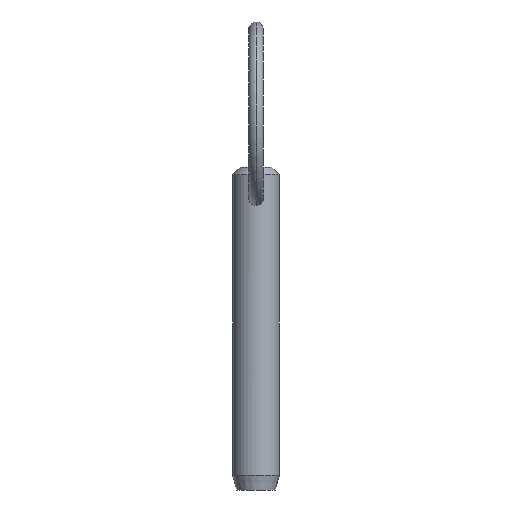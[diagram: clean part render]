
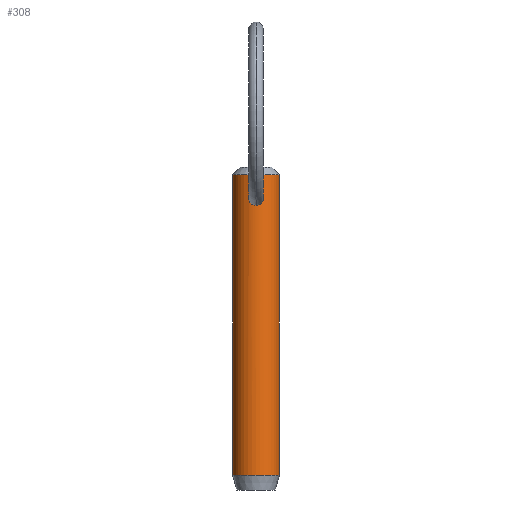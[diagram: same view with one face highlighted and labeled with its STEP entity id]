
A CAD part, front view. The second image highlights one B-rep face of the part: STEP entity #308.
In plain terms, the highlighted cylindrical face has radius 3.175 mm (diameter 6.35 mm), a partial arc.
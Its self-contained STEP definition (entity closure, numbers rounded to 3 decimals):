
#1 = FACE_BOUND ( 'NONE', #432, .T. ) ;
#2 = VERTEX_POINT ( 'NONE', #474 ) ;
#7 = CARTESIAN_POINT ( 'NONE',  ( 0., -3.175, 32.982 ) ) ;
#10 = CARTESIAN_POINT ( 'NONE',  ( 0., -3.175, 30.903 ) ) ;
#12 = CARTESIAN_POINT ( 'NONE',  ( 0.628, -3.114, 31.104 ) ) ;
#14 = CARTESIAN_POINT ( 'NONE',  ( 0.134, -3.175, 30.903 ) ) ;
#15 = AXIS2_PLACEMENT_3D ( 'NONE', #69, #179, #363 ) ;
#48 = CARTESIAN_POINT ( 'NONE',  ( 0.134, -3.175, 32.982 ) ) ;
#52 = CARTESIAN_POINT ( 'NONE',  ( -0.629, -3.114, 31.105 ) ) ;
#69 = CARTESIAN_POINT ( 'NONE',  ( 0., 0., -5.92 ) ) ;
#76 = CARTESIAN_POINT ( 'NONE',  ( 0.888, -3.049, 31.409 ) ) ;
#79 = CARTESIAN_POINT ( 'NONE',  ( 0.815, -3.07, 31.295 ) ) ;
#81 = ORIENTED_EDGE ( 'NONE', *, *, #413, .T. ) ;
#82 = CARTESIAN_POINT ( 'NONE',  ( 0.51, -3.136, 32.834 ) ) ;
#83 = CARTESIAN_POINT ( 'NONE',  ( -0.991, -3.016, 32.196 ) ) ;
#84 = CARTESIAN_POINT ( 'NONE',  ( -0.067, -3.175, 32.982 ) ) ;
#90 = CARTESIAN_POINT ( 'NONE',  ( -3.175, 0., 35.08 ) ) ;
#101 = VERTEX_POINT ( 'NONE', #165 ) ;
#104 = CARTESIAN_POINT ( 'NONE',  ( 3.175, 0., 30.5 ) ) ;
#112 = CARTESIAN_POINT ( 'NONE',  ( 0.982, -3.02, 31.658 ) ) ;
#117 = CARTESIAN_POINT ( 'NONE',  ( 0.617, -3.116, 32.751 ) ) ;
#118 = CARTESIAN_POINT ( 'NONE',  ( -0.615, -3.116, 32.753 ) ) ;
#122 = CARTESIAN_POINT ( 'NONE',  ( 0., -3.175, 32.982 ) ) ;
#123 = CARTESIAN_POINT ( 'NONE',  ( -0.516, -3.135, 31.031 ) ) ;
#136 = ORIENTED_EDGE ( 'NONE', *, *, #317, .T. ) ;
#145 = AXIS2_PLACEMENT_3D ( 'NONE', #411, #481, #405 ) ;
#158 = DIRECTION ( 'NONE',  ( 0., 0., -1. ) ) ;
#159 = CARTESIAN_POINT ( 'NONE',  ( -0.328, -3.159, 32.921 ) ) ;
#165 = CARTESIAN_POINT ( 'NONE',  ( 0., -3.175, 32.982 ) ) ;
#166 = EDGE_CURVE ( 'NONE', #438, #210, #466, .T. ) ;
#179 = DIRECTION ( 'NONE',  ( 0., 0., 1. ) ) ;
#180 = EDGE_CURVE ( 'NONE', #2, #210, #417, .T. ) ;
#191 = CARTESIAN_POINT ( 'NONE',  ( 0.269, -3.166, 32.95 ) ) ;
#196 = CARTESIAN_POINT ( 'NONE',  ( -0.264, -3.165, 32.944 ) ) ;
#197 = AXIS2_PLACEMENT_3D ( 'NONE', #414, #263, #230 ) ;
#201 = CARTESIAN_POINT ( 'NONE',  ( -0.815, -3.07, 31.295 ) ) ;
#210 = VERTEX_POINT ( 'NONE', #324 ) ;
#230 = DIRECTION ( 'NONE',  ( -1., 0., 0. ) ) ;
#235 = EDGE_CURVE ( 'NONE', #2, #410, #335, .T. ) ;
#240 = ORIENTED_EDGE ( 'NONE', *, *, #166, .T. ) ;
#252 = LINE ( 'NONE', #387, #437 ) ;
#262 = ORIENTED_EDGE ( 'NONE', *, *, #468, .T. ) ;
#263 = DIRECTION ( 'NONE',  ( 0., 0., -1. ) ) ;
#267 = CARTESIAN_POINT ( 'NONE',  ( -0.983, -3.02, 31.659 ) ) ;
#268 = CARTESIAN_POINT ( 'NONE',  ( 0., -3.175, 30.903 ) ) ;
#272 = CARTESIAN_POINT ( 'NONE',  ( -3.175, 0., -5.92 ) ) ;
#284 = FACE_OUTER_BOUND ( 'NONE', #291, .T. ) ;
#291 = EDGE_LOOP ( 'NONE', ( #473, #367, #81, #240 ) ) ;
#296 = CARTESIAN_POINT ( 'NONE',  ( 1.004, -3.012, 31.793 ) ) ;
#300 = CARTESIAN_POINT ( 'NONE',  ( -1.004, -3.012, 31.795 ) ) ;
#302 = CARTESIAN_POINT ( 'NONE',  ( -0.133, -3.173, 32.974 ) ) ;
#308 = ADVANCED_FACE ( 'NONE', ( #284, #1 ), #453, .T. ) ;
#317 = EDGE_CURVE ( 'NONE', #101, #446, #420, .T. ) ;
#322 = DIRECTION ( 'NONE',  ( 0., 0., -1. ) ) ;
#324 = CARTESIAN_POINT ( 'NONE',  ( 3.175, 0., -5.92 ) ) ;
#335 = CIRCLE ( 'NONE', #145, 3.175 ) ;
#339 = CARTESIAN_POINT ( 'NONE',  ( 0.515, -3.135, 31.03 ) ) ;
#341 = VECTOR ( 'NONE', #322, 1000. ) ;
#343 = CARTESIAN_POINT ( 'NONE',  ( -0.882, -3.055, 32.46 ) ) ;
#344 = CARTESIAN_POINT ( 'NONE',  ( -0.134, -3.175, 30.903 ) ) ;
#363 = DIRECTION ( 'NONE',  ( -1., 0., 0. ) ) ;
#367 = ORIENTED_EDGE ( 'NONE', *, *, #235, .T. ) ;
#373 = CARTESIAN_POINT ( 'NONE',  ( 0.992, -3.016, 32.194 ) ) ;
#381 = CARTESIAN_POINT ( 'NONE',  ( 0.268, -3.166, 30.929 ) ) ;
#383 = B_SPLINE_CURVE_WITH_KNOTS ( 'NONE', 3,
 ( #390, #344, #433, #123, #52, #201, #470, #267, #300, #83, #343, #118, #423, #159, #196, #302, #84, #122 ),
 .UNSPECIFIED., .F., .F.,
 ( 4, 2, 2, 2, 2, 2, 2, 2, 4 ),
 ( 0.006, 0.006, 0.007, 0.007, 0.008, 0.008, 0.009, 0.009, 0.009 ),
 .UNSPECIFIED. ) ;
#387 = CARTESIAN_POINT ( 'NONE',  ( -3.175, 0., 30.5 ) ) ;
#390 = CARTESIAN_POINT ( 'NONE',  ( 0., -3.175, 30.903 ) ) ;
#405 = DIRECTION ( 'NONE',  ( 1., 0., 0. ) ) ;
#410 = VERTEX_POINT ( 'NONE', #90 ) ;
#411 = CARTESIAN_POINT ( 'NONE',  ( 0., 0., 35.08 ) ) ;
#413 = EDGE_CURVE ( 'NONE', #410, #438, #252, .T. ) ;
#414 = CARTESIAN_POINT ( 'NONE',  ( 0., 0., 30.5 ) ) ;
#417 = LINE ( 'NONE', #104, #341 ) ;
#420 = B_SPLINE_CURVE_WITH_KNOTS ( 'NONE', 3,
 ( #7, #48, #191, #82, #117, #458, #373, #296, #112, #76, #79, #12, #339, #381, #14, #10 ),
 .UNSPECIFIED., .F., .F.,
 ( 4, 2, 2, 2, 2, 2, 2, 4 ),
 ( 0.003, 0.003, 0.004, 0.004, 0.005, 0.005, 0.006, 0.006 ),
 .UNSPECIFIED. ) ;
#423 = CARTESIAN_POINT ( 'NONE',  ( -0.508, -3.136, 32.835 ) ) ;
#432 = EDGE_LOOP ( 'NONE', ( #136, #262 ) ) ;
#433 = CARTESIAN_POINT ( 'NONE',  ( -0.269, -3.166, 30.929 ) ) ;
#437 = VECTOR ( 'NONE', #158, 1000. ) ;
#438 = VERTEX_POINT ( 'NONE', #272 ) ;
#446 = VERTEX_POINT ( 'NONE', #268 ) ;
#453 = CYLINDRICAL_SURFACE ( 'NONE', #197, 3.175 ) ;
#458 = CARTESIAN_POINT ( 'NONE',  ( 0.884, -3.055, 32.457 ) ) ;
#466 = CIRCLE ( 'NONE', #15, 3.175 ) ;
#468 = EDGE_CURVE ( 'NONE', #446, #101, #383, .T. ) ;
#470 = CARTESIAN_POINT ( 'NONE',  ( -0.888, -3.049, 31.409 ) ) ;
#473 = ORIENTED_EDGE ( 'NONE', *, *, #180, .F. ) ;
#474 = CARTESIAN_POINT ( 'NONE',  ( 3.175, 0., 35.08 ) ) ;
#481 = DIRECTION ( 'NONE',  ( 0., 0., -1. ) ) ;
